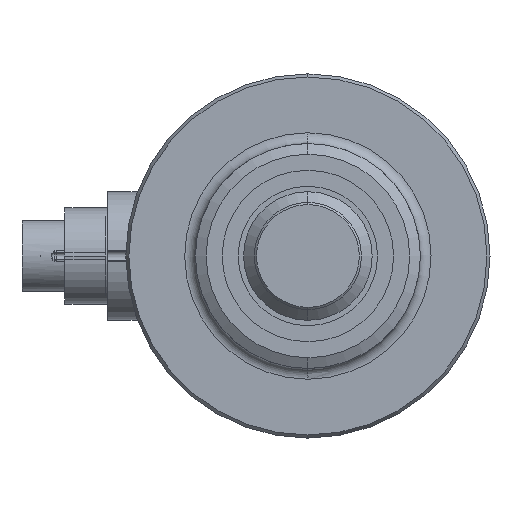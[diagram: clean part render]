
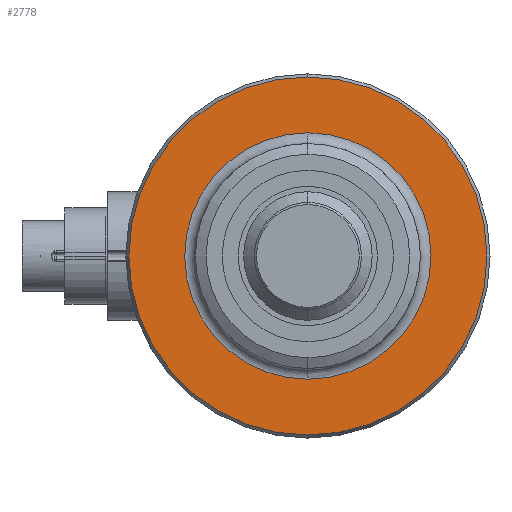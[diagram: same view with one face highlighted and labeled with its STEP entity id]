
A CAD part, left-side view. The second image highlights one B-rep face of the part: STEP entity #2778.
In plain terms, the highlighted planar face has unit normal (-1, 0, 0).
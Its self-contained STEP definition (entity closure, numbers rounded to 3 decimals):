
#665=CARTESIAN_POINT('',(-4.,0.,
0.));
#666=DIRECTION('',(1.,0.,0.));
#667=DIRECTION('',(0.,0.,-1.));
#668=AXIS2_PLACEMENT_3D('',#665,#666,#667);
#670=CARTESIAN_POINT('',(-4.,0.,
0.));
#671=DIRECTION('',(1.,0.,0.));
#672=DIRECTION('',(0.,0.,1.));
#673=AXIS2_PLACEMENT_3D('',#670,#671,#672);
#675=CARTESIAN_POINT('',(-4.,0.,0.));
#676=DIRECTION('',(-1.,0.,0.));
#677=DIRECTION('',(0.,0.,1.));
#678=AXIS2_PLACEMENT_3D('',#675,#676,#677);
#680=CARTESIAN_POINT('',(-4.,0.,0.));
#681=DIRECTION('',(-1.,0.,0.));
#682=DIRECTION('',(0.,0.01,1.));
#683=AXIS2_PLACEMENT_3D('',#680,#681,#682);
#685=CARTESIAN_POINT('',(-4.,0.,0.));
#686=DIRECTION('',(-1.,0.,0.));
#687=DIRECTION('',(0.,0.,-1.));
#688=AXIS2_PLACEMENT_3D('',#685,#686,#687);
#690=CARTESIAN_POINT('',(-4.,0.,0.));
#691=DIRECTION('',(-1.,0.,0.));
#692=DIRECTION('',(0.,-0.01,-1.));
#693=AXIS2_PLACEMENT_3D('',#690,#691,#692);
#1710=CARTESIAN_POINT('',(-4.,0.,
16.711));
#1711=CARTESIAN_POINT('',(-4.,0.,
-16.711));
#1712=VERTEX_POINT('',#1710);
#1713=VERTEX_POINT('',#1711);
#1714=CARTESIAN_POINT('',(-4.,0.116,11.499));
#1715=CARTESIAN_POINT('',(-4.,0.,-11.5));
#1716=VERTEX_POINT('',#1714);
#1717=VERTEX_POINT('',#1715);
#1718=CARTESIAN_POINT('',(-4.,0.,11.5));
#1719=VERTEX_POINT('',#1718);
#1720=CARTESIAN_POINT('',(-4.,-0.116,-11.499));
#1721=VERTEX_POINT('',#1720);
#2758=CARTESIAN_POINT('',(-4.,0.,0.));
#2759=DIRECTION('',(1.,0.,0.));
#2760=DIRECTION('',(0.,0.,1.));
#2761=AXIS2_PLACEMENT_3D('',#2758,#2759,#2760);
#2762=PLANE('',#2761);
#2764=ORIENTED_EDGE('',*,*,#2763,.T.);
#2765=ORIENTED_EDGE('',*,*,#2748,.T.);
#2766=EDGE_LOOP('',(#2764,#2765));
#2767=FACE_OUTER_BOUND('',#2766,.F.);
#2769=ORIENTED_EDGE('',*,*,#2768,.T.);
#2771=ORIENTED_EDGE('',*,*,#2770,.T.);
#2773=ORIENTED_EDGE('',*,*,#2772,.T.);
#2775=ORIENTED_EDGE('',*,*,#2774,.T.);
#2776=EDGE_LOOP('',(#2769,#2771,#2773,#2775));
#2777=FACE_BOUND('',#2776,.F.);
#2778=ADVANCED_FACE('',(#2767,#2777),#2762,.F.);
#669=CIRCLE('',#668,16.711);
#674=CIRCLE('',#673,16.711);
#679=CIRCLE('',#678,11.5);
#684=CIRCLE('',#683,11.5);
#689=CIRCLE('',#688,11.5);
#694=CIRCLE('',#693,11.5);
#2748=EDGE_CURVE('',#1712,#1713,#674,.T.);
#2763=EDGE_CURVE('',#1713,#1712,#669,.T.);
#2768=EDGE_CURVE('',#1719,#1716,#679,.T.);
#2770=EDGE_CURVE('',#1716,#1717,#684,.T.);
#2772=EDGE_CURVE('',#1717,#1721,#689,.T.);
#2774=EDGE_CURVE('',#1721,#1719,#694,.T.);
